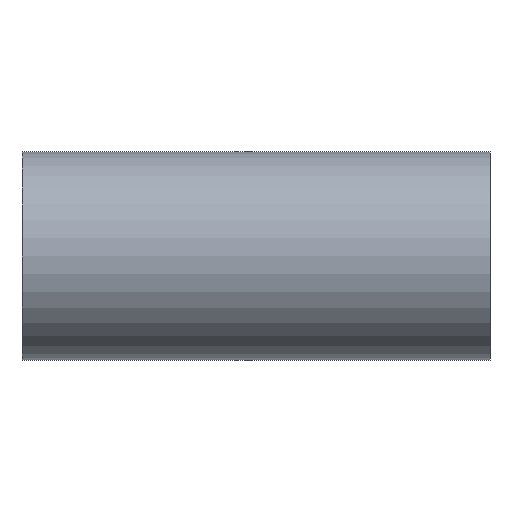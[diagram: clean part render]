
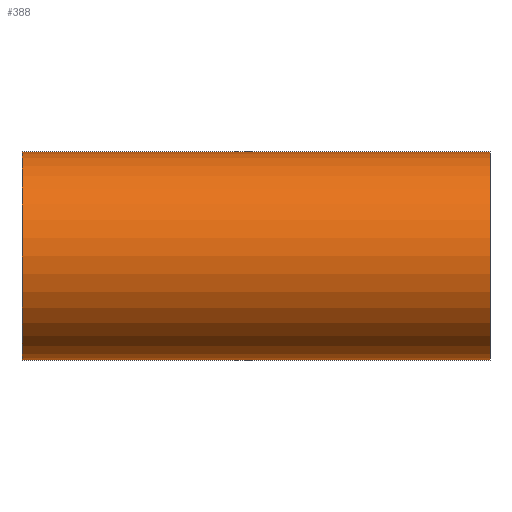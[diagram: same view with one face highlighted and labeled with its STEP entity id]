
A CAD part, front view. The second image highlights one B-rep face of the part: STEP entity #388.
In plain terms, the highlighted cylindrical face has radius 38.1 mm (diameter 76.2 mm), a partial arc.
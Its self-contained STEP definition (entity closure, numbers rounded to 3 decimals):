
#6 = LINE ( 'NONE', #1800, #1196 ) ;
#109 = CARTESIAN_POINT ( 'NONE',  ( 85.7, 0., -38.1 ) ) ;
#220 = VERTEX_POINT ( 'NONE', #1484 ) ;
#242 = DIRECTION ( 'NONE',  ( 1., 0., 0. ) ) ;
#288 = AXIS2_PLACEMENT_3D ( 'NONE', #1262, #758, #1259 ) ;
#307 = FACE_OUTER_BOUND ( 'NONE', #582, .T. ) ;
#317 = EDGE_CURVE ( 'NONE', #220, #1381, #1481, .T. ) ;
#338 = DIRECTION ( 'NONE',  ( -1., 0., 0. ) ) ;
#369 = AXIS2_PLACEMENT_3D ( 'NONE', #1273, #338, #1429 ) ;
#388 = ADVANCED_FACE ( 'NONE', ( #307 ), #693, .T. ) ;
#467 = CARTESIAN_POINT ( 'NONE',  ( -85.7, 0., -38.1 ) ) ;
#567 = DIRECTION ( 'NONE',  ( 0., 0., -1. ) ) ;
#569 = VECTOR ( 'NONE', #1684, 1000. ) ;
#582 = EDGE_LOOP ( 'NONE', ( #1184, #917, #1101, #1079 ) ) ;
#597 = DIRECTION ( 'NONE',  ( 1., 0., 0. ) ) ;
#693 = CYLINDRICAL_SURFACE ( 'NONE', #288, 38.1 ) ;
#758 = DIRECTION ( 'NONE',  ( 1., 0., 0. ) ) ;
#773 = VERTEX_POINT ( 'NONE', #109 ) ;
#774 = CARTESIAN_POINT ( 'NONE',  ( 85.7, 0., 38.1 ) ) ;
#917 = ORIENTED_EDGE ( 'NONE', *, *, #317, .T. ) ;
#1049 = EDGE_CURVE ( 'NONE', #1381, #773, #6, .T. ) ;
#1065 = CARTESIAN_POINT ( 'NONE',  ( -85.7, 0., 38.1 ) ) ;
#1079 = ORIENTED_EDGE ( 'NONE', *, *, #1782, .T. ) ;
#1101 = ORIENTED_EDGE ( 'NONE', *, *, #1049, .T. ) ;
#1177 = CARTESIAN_POINT ( 'NONE',  ( -85.7, 0., 0. ) ) ;
#1184 = ORIENTED_EDGE ( 'NONE', *, *, #1595, .F. ) ;
#1196 = VECTOR ( 'NONE', #242, 1000. ) ;
#1259 = DIRECTION ( 'NONE',  ( 0., 0., -1. ) ) ;
#1262 = CARTESIAN_POINT ( 'NONE',  ( -85.7, 0., 0. ) ) ;
#1273 = CARTESIAN_POINT ( 'NONE',  ( 85.7, 0., 0. ) ) ;
#1381 = VERTEX_POINT ( 'NONE', #467 ) ;
#1428 = LINE ( 'NONE', #1065, #569 ) ;
#1429 = DIRECTION ( 'NONE',  ( 0., 0., -1. ) ) ;
#1481 = CIRCLE ( 'NONE', #1670, 38.1 ) ;
#1484 = CARTESIAN_POINT ( 'NONE',  ( -85.7, 0., 38.1 ) ) ;
#1505 = VERTEX_POINT ( 'NONE', #774 ) ;
#1581 = CIRCLE ( 'NONE', #369, 38.1 ) ;
#1595 = EDGE_CURVE ( 'NONE', #220, #1505, #1428, .T. ) ;
#1670 = AXIS2_PLACEMENT_3D ( 'NONE', #1177, #597, #567 ) ;
#1684 = DIRECTION ( 'NONE',  ( 1., 0., 0. ) ) ;
#1782 = EDGE_CURVE ( 'NONE', #773, #1505, #1581, .T. ) ;
#1800 = CARTESIAN_POINT ( 'NONE',  ( -85.7, 0., -38.1 ) ) ;
